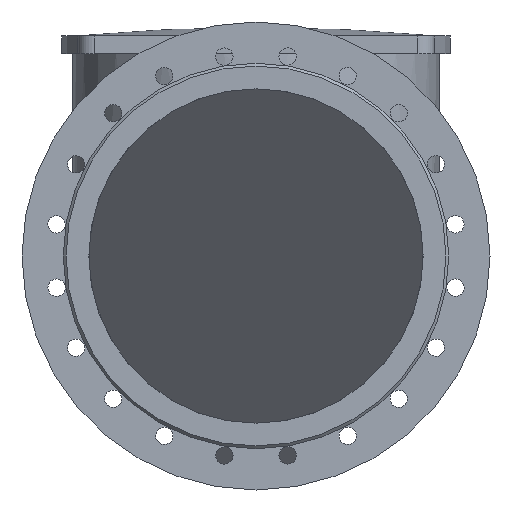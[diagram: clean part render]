
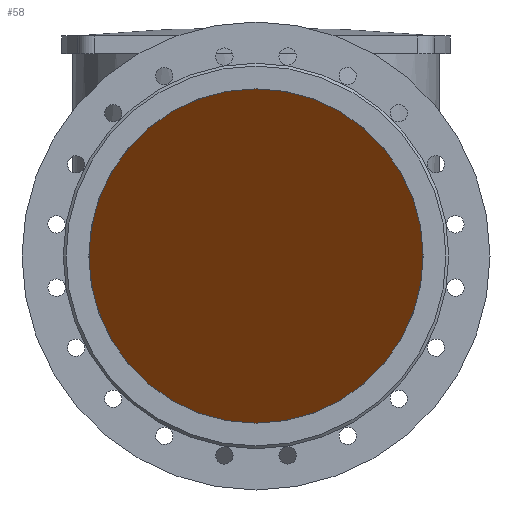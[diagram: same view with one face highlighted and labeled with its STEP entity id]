
A CAD part, front view. The second image highlights one B-rep face of the part: STEP entity #58.
In plain terms, the highlighted planar face has unit normal (0, -0.707, -0.707).
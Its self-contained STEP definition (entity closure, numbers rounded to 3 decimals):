
#58=ADVANCED_FACE('',(#878),#880,.T.);
#878=FACE_BOUND('',#879,.T.);
#879=EDGE_LOOP('',(#3033));
#880=PLANE('',#881);
#881=AXIS2_PLACEMENT_3D('',#882,#883,#884);
#882=CARTESIAN_POINT('',(-420.,-319.084,319.084));
#883=DIRECTION('',(0.,-0.707,-0.707));
#884=DIRECTION('',(0.,0.707,-0.707));
#3033=ORIENTED_EDGE('',*,*,#3398,.T.);
#3398=EDGE_CURVE('',#3577,#3577,#3578,.F.);
#3577=VERTEX_POINT('',#3900);
#3578=(BOUNDED_CURVE()B_SPLINE_CURVE(3,
(#3901,#3902,#3903,#3904,#3905,#3906,#3907),
.UNSPECIFIED.,.T.,.F.)B_SPLINE_CURVE_WITH_KNOTS((4,3,4),
(0.,0.5,1.),
.UNSPECIFIED.)CURVE()GEOMETRIC_REPRESENTATION_ITEM()RATIONAL_B_SPLINE_CURVE((1.,
0.333,0.333,1.,0.333,0.333,1.))
REPRESENTATION_ITEM(''));
#3900=CARTESIAN_POINT('',(0.,-300.,300.));
#3901=CARTESIAN_POINT('',(0.,-300.,300.));
#3902=CARTESIAN_POINT('',(600.,-300.,300.));
#3903=CARTESIAN_POINT('',(600.,300.,-300.));
#3904=CARTESIAN_POINT('',(0.,300.,-300.));
#3905=CARTESIAN_POINT('',(-600.,300.,-300.));
#3906=CARTESIAN_POINT('',(-600.,-300.,300.));
#3907=CARTESIAN_POINT('',(0.,-300.,300.));
